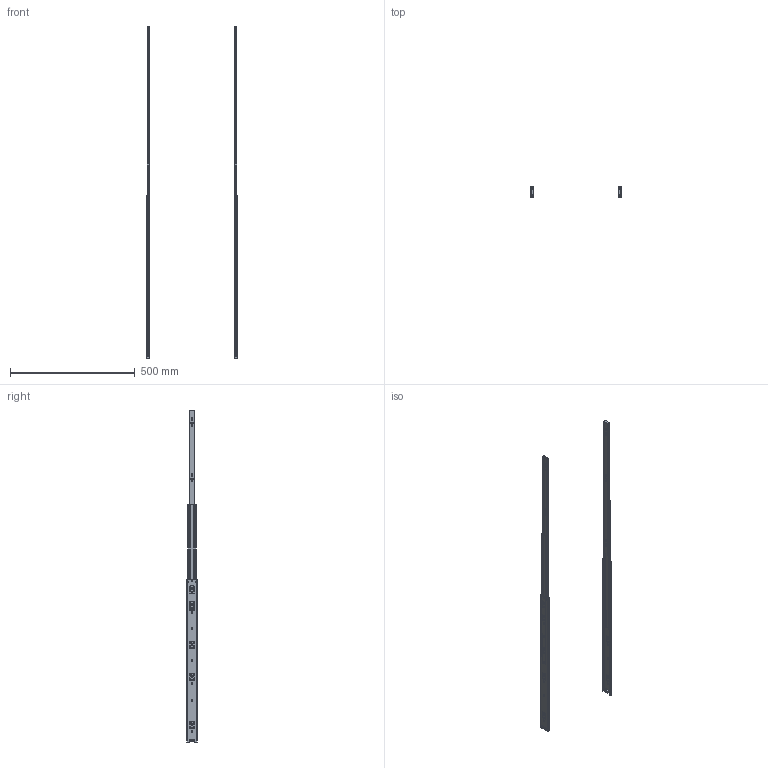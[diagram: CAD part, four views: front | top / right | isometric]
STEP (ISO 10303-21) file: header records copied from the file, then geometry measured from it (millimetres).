
FILE_DESCRIPTION(/* description */ (''),/* implementation_level */ '2;1');
FILE_NAME(/* name */ 'D:\$Workingspace\Designs\Katalog\Cadsoft\GTV Prowadnice\Prowadnice GTV_bryły 3D\PK-0H45650GX1_wysunieta.stp',/* time_stamp */ '2016-11-22T12:20:34+01:00',/* author */ ('tomaszw'),/* organization */ (''),/* preprocessor_version */ 'ST-DEVELOPER v16.1',/* originating_system */ 'Autodesk Inventor 2016',/* authorisation */ '');
FILE_SCHEMA (('AUTOMOTIVE_DESIGN { 1 0 10303 214 3 1 1 }'));
Length unit declared in the file: millimetre
Products named in the file (5): Blokada_5; PK-0H45_1-650-GX1; PK-0H45_2-650-GX1; PK-0H45_3-650-GX1; PK-0H45-_-GX1
Assembly tree (8 placements, depth 2):
  PK-0H45-_-GX1
    Blokada_5  x2
    PK-0H45_1-650-GX1  x2
    PK-0H45_2-650-GX1  x2
    PK-0H45_3-650-GX1  x2
Bounding box: 364 x 43.8 x 1330 mm (x, y, z)
Volume: 191400.4 mm3; surface area: 391111.2 mm2
Topology: 8 solids, 8 shells, 560 faces, 1624 edges, 1080 vertices
Faces by surface type: cylinder 284, plane 272, cone 4
Full cylindrical faces by diameter (mm): 4.5 x6, 5 x2, 6 x10, 7 x4
Entity records: 9830 total; most frequent: DIRECTION 1661, CARTESIAN_POINT 1660, ORIENTED_EDGE 1602, EDGE_CURVE 801, AXIS2_PLACEMENT_3D 575, VERTEX_POINT 540, LINE 511, VECTOR 511
